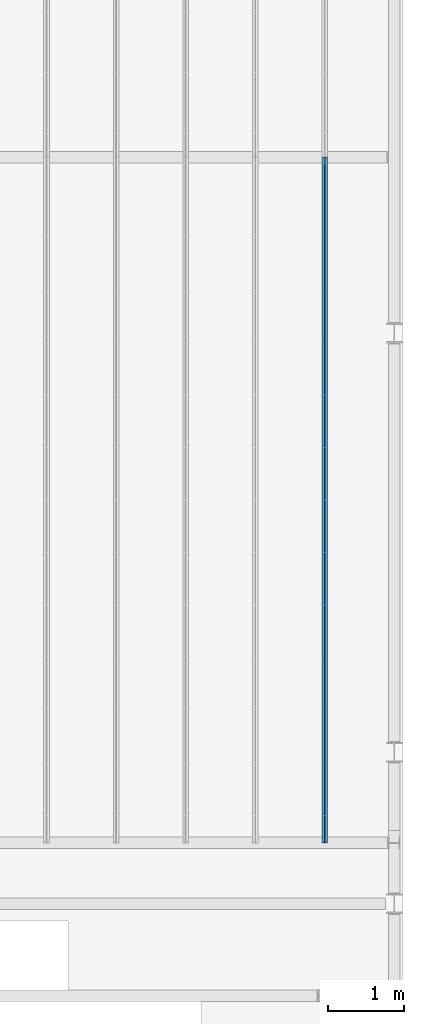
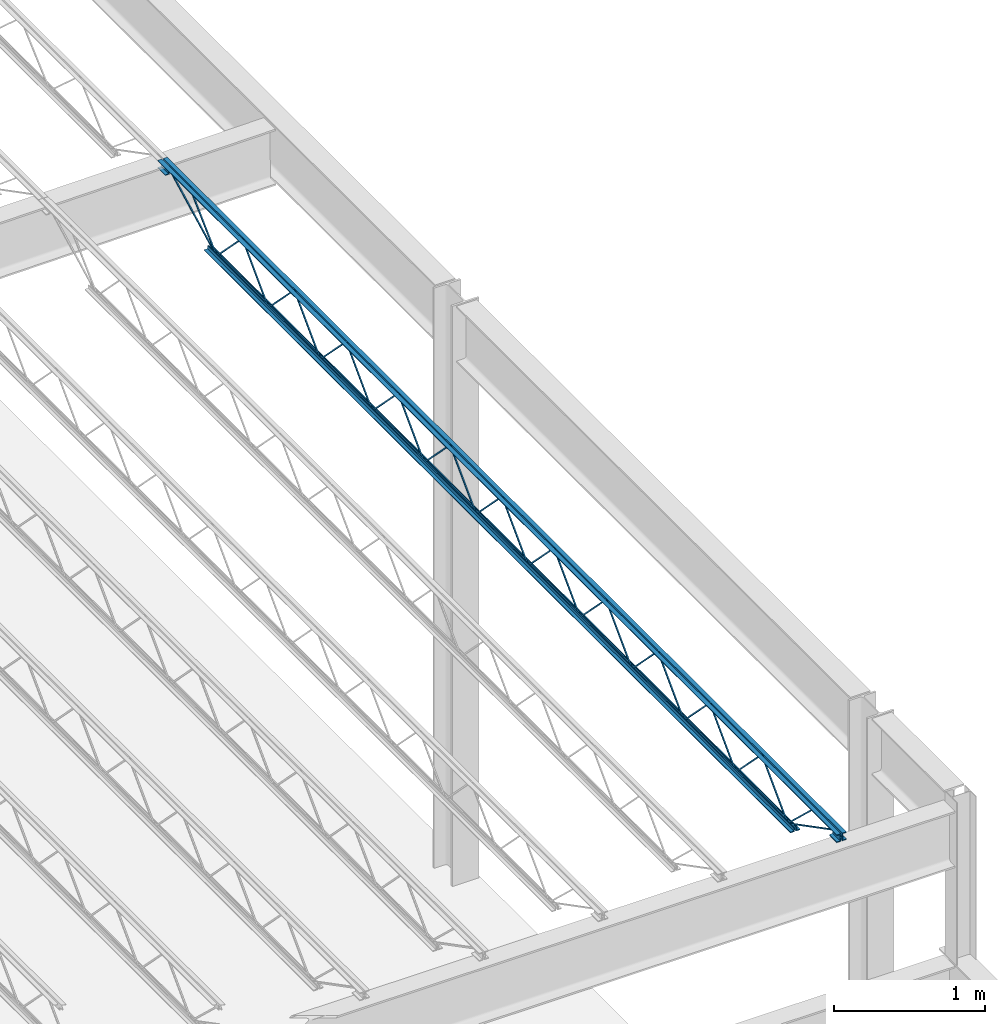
# One storey, part 74 of 119: 1 beam.
"""IFC2X3 building model written with IfcOpenShell, lengths in metres."""

from ifc_helpers import new_model, entity, si_unit, converted_unit, frame, origin, place, context, project, spatial, face_set, surface_model, element, save


model = new_model("IFC2X3")

# Units and contexts
model_context = context("Model", 3, precision=1e-09, world=origin())
plan_context = context("Plan", 3, precision=1e-09, world=origin())
ifc_project = project(units=[si_unit("LENGTHUNIT", "METRE"), si_unit("AREAUNIT", "SQUARE_METRE"), si_unit("VOLUMEUNIT", "CUBIC_METRE"), converted_unit("PLANEANGLEUNIT", "DEGREE", entity("IfcRatioMeasure", 0.01745329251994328), si_unit("PLANEANGLEUNIT", "RADIAN"), dimensions=[0, 0, 0, 0, 0, 0, 0]), si_unit("TIMEUNIT", "SECOND")], contexts=[model_context, plan_context])

# Site, building, storey
site_placement = place(None, origin())
site = spatial("IfcSite", under=ifc_project, at=site_placement, Name="Default", CompositionType="ELEMENT")
building_placement = place(site_placement, origin())
building = spatial("IfcBuilding", under=site, at=building_placement, CompositionType="ELEMENT")
storey_placement = place(building_placement, frame((0.0, 0.0, 4.570000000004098)))
storey = spatial("IfcBuildingStorey", under=building, at=storey_placement, Name="Second Floor", CompositionType="ELEMENT", Elevation=4.570000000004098)

# Beam
beam_placement = place(storey_placement, frame((-0.9467500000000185, 35.80499999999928, 4.323999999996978)))
element("IfcBeam", 1, at=beam_placement, inside=storey, Name="M_K-Series Bar Joist-Rod Web:14K1:14K1", ObjectType="M_K-Series Bar Joist-Rod Web:14K1", context=model_context, shape_type="SurfaceModel", body=[
    surface_model("IfcFaceBasedSurfaceModel", [(0.04150000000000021, 6.89009090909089, 0.01110000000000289), (0.0320000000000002, 6.89009090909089, 0.01110000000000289), (0.0320000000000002, 6.89009090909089, 0.001600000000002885), (0.04150000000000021, 6.89009090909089, 0.001600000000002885), (0.0320000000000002, 6.891272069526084, 0.01110000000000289), (0.04150000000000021, 6.891272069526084, 0.01110000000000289), (0.0320000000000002, 6.895259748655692, 0.001600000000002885), (0.03200000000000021, 7.232137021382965, 0.3449000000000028), (0.03200000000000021, 7.23449934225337, 0.3449000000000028), (0.03200000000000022, 7.571376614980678, 0.001600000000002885), (0.03200000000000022, 7.576545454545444, 0.001600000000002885), (0.03200000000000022, 7.576545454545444, 0.01110000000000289), (0.03200000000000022, 7.575364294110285, 0.01110000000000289), (0.0320000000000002, 7.238487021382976, 0.3544000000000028), (0.03200000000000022, 7.228149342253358, 0.3544000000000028), (0.0415000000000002, 6.895259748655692, 0.001600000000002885), (0.04150000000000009, 7.232137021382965, 0.3449000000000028), (0.04150000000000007, 7.23449934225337, 0.3449000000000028), (0.04150000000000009, 7.571376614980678, 0.001600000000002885), (0.04150000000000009, 7.576545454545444, 0.001600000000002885), (0.04150000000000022, 7.576545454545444, 0.01110000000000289), (0.04150000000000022, 7.575364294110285, 0.01110000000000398), (0.04150000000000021, 7.238487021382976, 0.3544000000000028), (0.04150000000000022, 7.228149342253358, 0.3544000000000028), (0.0415000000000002, 6.203636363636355, 0.01110000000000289), (0.0320000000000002, 6.203636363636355, 0.01110000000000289), (0.0320000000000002, 6.203636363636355, 0.001600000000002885), (0.0415000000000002, 6.203636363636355, 0.001600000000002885), (0.0320000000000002, 6.204817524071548, 0.01110000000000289), (0.0415000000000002, 6.204817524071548, 0.01110000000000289), (0.0320000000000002, 6.208805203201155, 0.001600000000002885), (0.0320000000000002, 6.545682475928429, 0.3449000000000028), (0.0320000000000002, 6.548044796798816, 0.3449000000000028), (0.03200000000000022, 6.884922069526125, 0.001600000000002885), (0.03200000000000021, 6.888909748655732, 0.01110000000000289), (0.0320000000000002, 6.552032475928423, 0.3544000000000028), (0.03200000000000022, 6.541694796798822, 0.3544000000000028), (0.0415000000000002, 6.208805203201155, 0.001600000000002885), (0.04150000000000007, 6.545682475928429, 0.3449000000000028), (0.04150000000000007, 6.548044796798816, 0.3449000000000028), (0.04150000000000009, 6.884922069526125, 0.001600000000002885), (0.04150000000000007, 6.89009090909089, 0.001600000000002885), (0.04150000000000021, 6.888909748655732, 0.01110000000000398), (0.0415000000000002, 6.552032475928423, 0.3544000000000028), (0.04150000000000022, 6.541694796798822, 0.3544000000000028), (0.0415000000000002, 5.517181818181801, 0.01110000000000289), (0.0320000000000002, 5.517181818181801, 0.01110000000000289), (0.0320000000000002, 5.517181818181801, 0.001600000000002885), (0.0415000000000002, 5.517181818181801, 0.001600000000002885), (0.0320000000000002, 5.518362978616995, 0.01110000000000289), (0.0415000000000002, 5.518362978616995, 0.01110000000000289), (0.03200000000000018, 5.522350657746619, 0.001600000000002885), (0.0320000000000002, 5.859227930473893, 0.3449000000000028), (0.0320000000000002, 5.861590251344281, 0.3449000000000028), (0.03200000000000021, 6.198467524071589, 0.001600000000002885), (0.0320000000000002, 6.202455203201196, 0.01110000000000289), (0.03200000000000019, 5.865577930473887, 0.3544000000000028), (0.0320000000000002, 5.855240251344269, 0.3544000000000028), (0.0415000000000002, 5.522350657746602, 0.001600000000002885), (0.04150000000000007, 5.859227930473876, 0.3449000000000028), (0.04150000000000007, 5.861590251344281, 0.3449000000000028), (0.04150000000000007, 6.198467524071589, 0.001600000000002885), (0.04150000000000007, 6.203636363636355, 0.001600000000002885), (0.04150000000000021, 6.202455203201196, 0.01110000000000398), (0.0415000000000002, 5.865577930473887, 0.3544000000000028), (0.04150000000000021, 5.855240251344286, 0.3544000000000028), (0.0415000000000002, 4.830727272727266, 0.01110000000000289), (0.03200000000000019, 4.830727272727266, 0.01110000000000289), (0.03200000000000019, 4.830727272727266, 0.001600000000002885), (0.0415000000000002, 4.830727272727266, 0.001600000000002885), (0.03200000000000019, 4.831908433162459, 0.01110000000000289), (0.0415000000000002, 4.831908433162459, 0.01110000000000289), (0.03200000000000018, 4.835896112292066, 0.001600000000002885), (0.0320000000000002, 5.17277338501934, 0.3449000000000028), (0.03200000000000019, 5.175135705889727, 0.3449000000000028), (0.0320000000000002, 5.512012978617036, 0.001600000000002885), (0.0320000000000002, 5.517181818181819, 0.001600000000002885), (0.0320000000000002, 5.517181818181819, 0.01110000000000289), (0.0320000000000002, 5.51600065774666, 0.01110000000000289), (0.03200000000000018, 5.179123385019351, 0.3544000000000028), (0.0320000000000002, 5.168785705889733, 0.3544000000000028), (0.04150000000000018, 4.835896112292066, 0.001600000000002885), (0.04150000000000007, 5.17277338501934, 0.3449000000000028), (0.04150000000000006, 5.175135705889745, 0.3449000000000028), (0.04150000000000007, 5.512012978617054, 0.001600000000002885), (0.04150000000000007, 5.517181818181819, 0.001600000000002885), (0.0415000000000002, 5.517181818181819, 0.01110000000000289), (0.0415000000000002, 5.51600065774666, 0.01110000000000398), (0.04150000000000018, 5.179123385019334, 0.3544000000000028), (0.0415000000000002, 5.168785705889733, 0.3544000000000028), (0.04150000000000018, 4.14427272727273, 0.01110000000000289), (0.03200000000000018, 4.14427272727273, 0.01110000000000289), (0.03200000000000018, 4.14427272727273, 0.001600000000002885), (0.04150000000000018, 4.14427272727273, 0.001600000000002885), (0.03200000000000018, 4.145453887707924, 0.01110000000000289), (0.04150000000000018, 4.145453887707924, 0.01110000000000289), (0.03200000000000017, 4.14944156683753, 0.001600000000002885), (0.03200000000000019, 4.486318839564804, 0.3449000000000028), (0.03200000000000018, 4.488681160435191, 0.3449000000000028), (0.0320000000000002, 4.8255584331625, 0.001600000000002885), (0.03200000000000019, 4.829546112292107, 0.01110000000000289), (0.03200000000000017, 4.492668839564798, 0.3544000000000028), (0.0320000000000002, 4.482331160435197, 0.3544000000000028), (0.04150000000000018, 4.14944156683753, 0.001600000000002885), (0.04150000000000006, 4.486318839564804, 0.3449000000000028), (0.04150000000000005, 4.488681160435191, 0.3449000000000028), (0.04150000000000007, 4.8255584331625, 0.001600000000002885), (0.04150000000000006, 4.830727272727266, 0.001600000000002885), (0.0415000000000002, 4.829546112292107, 0.01110000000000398), (0.04150000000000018, 4.492668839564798, 0.3544000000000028), (0.0415000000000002, 4.482331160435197, 0.3544000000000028), (0.04150000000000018, 3.457818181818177, 0.01110000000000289), (0.03200000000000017, 3.457818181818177, 0.01110000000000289), (0.03200000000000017, 3.457818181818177, 0.001600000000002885), (0.04150000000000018, 3.457818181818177, 0.001600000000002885), (0.03200000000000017, 3.458999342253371, 0.01110000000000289), (0.04150000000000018, 3.458999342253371, 0.01110000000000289), (0.03200000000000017, 3.462987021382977, 0.001600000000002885), (0.03200000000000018, 3.799864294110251, 0.3449000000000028), (0.03200000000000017, 3.802226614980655, 0.3449000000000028), (0.03200000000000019, 4.139103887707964, 0.001600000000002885), (0.03200000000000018, 4.143091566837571, 0.01110000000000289), (0.03200000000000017, 3.806214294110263, 0.3544000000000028), (0.03200000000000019, 3.795876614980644, 0.3544000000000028), (0.04150000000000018, 3.462987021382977, 0.001600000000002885), (0.04150000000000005, 3.799864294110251, 0.3449000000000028), (0.04150000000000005, 3.802226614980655, 0.3449000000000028), (0.04150000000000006, 4.139103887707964, 0.001600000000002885), (0.04150000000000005, 4.14427272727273, 0.001600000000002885), (0.04150000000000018, 4.143091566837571, 0.01110000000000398), (0.04150000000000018, 3.806214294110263, 0.3544000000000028), (0.0415000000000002, 3.795876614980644, 0.3544000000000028), (0.04150000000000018, 2.771363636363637, 0.01110000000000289), (0.03200000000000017, 2.771363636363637, 0.01110000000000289), (0.03200000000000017, 2.771363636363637, 0.001600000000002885), (0.04150000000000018, 2.771363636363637, 0.001600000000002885), (0.03200000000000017, 2.772544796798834, 0.01110000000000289), (0.04150000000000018, 2.772544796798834, 0.01110000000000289), (0.03200000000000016, 2.776532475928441, 0.001600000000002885), (0.03200000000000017, 3.113409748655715, 0.3449000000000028), (0.03200000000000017, 3.115772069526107, 0.3449000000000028), (0.03200000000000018, 3.452649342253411, 0.001600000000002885), (0.03200000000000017, 3.456637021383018, 0.01110000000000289), (0.03200000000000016, 3.119759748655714, 0.3544000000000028), (0.03200000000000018, 3.109422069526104, 0.3544000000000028), (0.04150000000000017, 2.776532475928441, 0.001600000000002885), (0.04150000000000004, 3.113409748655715, 0.3449000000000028), (0.04150000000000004, 3.115772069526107, 0.3449000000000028), (0.04150000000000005, 3.452649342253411, 0.001600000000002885), (0.04150000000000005, 3.457818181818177, 0.001600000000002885), (0.04150000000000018, 3.456637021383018, 0.01110000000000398), (0.04150000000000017, 3.119759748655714, 0.3544000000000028), (0.04150000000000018, 3.109422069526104, 0.3544000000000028), (0.04150000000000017, 2.084909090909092, 0.01110000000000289), (0.03200000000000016, 2.084909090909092, 0.01110000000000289), (0.03200000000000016, 2.084909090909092, 0.001600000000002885), (0.04150000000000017, 2.084909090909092, 0.001600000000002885), (0.03200000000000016, 2.08609025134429, 0.01110000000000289), (0.04150000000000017, 2.08609025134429, 0.01110000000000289), (0.03200000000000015, 2.090077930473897, 0.001600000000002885), (0.03200000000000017, 2.426955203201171, 0.3449000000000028), (0.03200000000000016, 2.429317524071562, 0.3449000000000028), (0.03200000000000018, 2.766194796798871, 0.001600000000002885), (0.03200000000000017, 2.770182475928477, 0.01110000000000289), (0.03200000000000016, 2.433305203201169, 0.3544000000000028), (0.03200000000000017, 2.422967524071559, 0.3544000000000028), (0.04150000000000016, 2.090077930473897, 0.001600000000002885), (0.04150000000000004, 2.426955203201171, 0.3449000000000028), (0.04150000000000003, 2.429317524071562, 0.3449000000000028), (0.04150000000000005, 2.766194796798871, 0.001600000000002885), (0.04150000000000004, 2.771363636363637, 0.001600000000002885), (0.04150000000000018, 2.770182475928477, 0.01110000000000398), (0.04150000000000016, 2.433305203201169, 0.3544000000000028), (0.04150000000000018, 2.422967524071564, 0.3544000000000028), (0.04150000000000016, 1.398454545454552, 0.01110000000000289), (0.03200000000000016, 1.398454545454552, 0.01110000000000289), (0.03200000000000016, 1.398454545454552, 0.001600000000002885), (0.04150000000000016, 1.398454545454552, 0.001600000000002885), (0.03200000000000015, 1.39963570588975, 0.01110000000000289), (0.04150000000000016, 1.39963570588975, 0.01110000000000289), (0.03200000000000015, 1.403623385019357, 0.001600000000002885), (0.03200000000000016, 1.740500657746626, 0.3449000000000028), (0.03200000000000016, 1.742862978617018, 0.3449000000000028), (0.03200000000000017, 2.07974025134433, 0.001600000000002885), (0.03200000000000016, 2.084909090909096, 0.001600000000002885), (0.03200000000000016, 2.084909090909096, 0.01110000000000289), (0.03200000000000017, 2.083727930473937, 0.01110000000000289), (0.03200000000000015, 1.746850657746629, 0.3544000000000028), (0.03200000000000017, 1.736512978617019, 0.3544000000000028), (0.04150000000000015, 1.403623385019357, 0.001600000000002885), (0.04150000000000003, 1.74050065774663, 0.3449000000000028), (0.04150000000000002, 1.742862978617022, 0.3449000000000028), (0.04150000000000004, 2.07974025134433, 0.001600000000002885), (0.04150000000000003, 2.084909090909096, 0.001600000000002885), (0.04150000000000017, 2.084909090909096, 0.01110000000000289), (0.04150000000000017, 2.083727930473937, 0.01110000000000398), (0.04150000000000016, 1.746850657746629, 0.3544000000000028), (0.04150000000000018, 1.736512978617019, 0.3544000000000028), (0.04150000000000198, 7.576545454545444, 0.01109999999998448), (0.03200000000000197, 7.576545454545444, 0.01109999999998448), (0.03200000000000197, 7.576545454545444, 0.001599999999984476), (0.04150000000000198, 7.576545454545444, 0.001599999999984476), (0.03200000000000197, 7.577726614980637, 0.01109999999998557), (0.04150000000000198, 7.577726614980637, 0.01109999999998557), (0.03200000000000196, 7.581714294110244, 0.001599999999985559), (0.03200000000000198, 7.918591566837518, 0.3448999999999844), (0.03200000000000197, 7.920953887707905, 0.3448999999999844), (0.03200000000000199, 8.257831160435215, 0.001599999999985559), (0.03200000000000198, 8.26299999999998, 0.001599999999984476), (0.03200000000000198, 8.26299999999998, 0.01109999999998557), (0.03200000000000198, 8.261818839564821, 0.01109999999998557), (0.03200000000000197, 7.924941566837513, 0.3543999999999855), (0.03200000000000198, 7.914603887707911, 0.3543999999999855), (0.04150000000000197, 7.581714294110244, 0.001599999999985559), (0.04150000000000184, 7.918591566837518, 0.3448999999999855), (0.04150000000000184, 7.920953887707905, 0.3448999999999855), (0.04150000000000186, 8.257831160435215, 0.001599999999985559), (0.04150000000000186, 8.26299999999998, 0.001599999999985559), (0.04150000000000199, 8.26299999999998, 0.01109999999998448), (0.04150000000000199, 8.261818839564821, 0.01109999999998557), (0.04150000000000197, 7.924941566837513, 0.3543999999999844), (0.04150000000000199, 7.914603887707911, 0.3543999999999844), (0.04150000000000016, 0.7120000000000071, 0.01110000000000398), (0.03200000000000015, 0.7120000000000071, 0.01110000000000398), (0.03200000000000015, 0.7120000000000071, 0.001600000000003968), (0.04150000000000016, 0.7120000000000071, 0.001600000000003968), (0.03200000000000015, 0.7131811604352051, 0.01110000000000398), (0.04150000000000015, 0.7131811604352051, 0.01110000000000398), (0.03200000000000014, 0.7171688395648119, 0.001600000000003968), (0.03200000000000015, 1.054046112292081, 0.3449000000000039), (0.03200000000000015, 1.056408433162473, 0.3449000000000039), (0.03200000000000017, 1.393285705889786, 0.001600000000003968), (0.03200000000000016, 1.398454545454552, 0.001600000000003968), (0.03200000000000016, 1.398454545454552, 0.01110000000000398), (0.03200000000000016, 1.397273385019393, 0.01110000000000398), (0.03200000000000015, 1.060396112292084, 0.3544000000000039), (0.03200000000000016, 1.050058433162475, 0.3544000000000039), (0.04150000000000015, 0.7171688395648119, 0.001600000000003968), (0.04150000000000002, 1.054046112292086, 0.3449000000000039), (0.04150000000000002, 1.056408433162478, 0.3449000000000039), (0.04150000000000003, 1.393285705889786, 0.001600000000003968), (0.04150000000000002, 1.398454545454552, 0.001600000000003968), (0.04150000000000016, 1.398454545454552, 0.01110000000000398), (0.04150000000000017, 1.397273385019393, 0.01110000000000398), (0.04150000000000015, 1.060396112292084, 0.3544000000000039), (0.04150000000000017, 1.050058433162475, 0.3544000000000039), (0.03200000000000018, 8.975000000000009, 0.3559999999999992), (0.0, 8.975000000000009, 0.3559999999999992), (0.0, 8.975000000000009, 0.3494999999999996), (0.0254999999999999, 8.975000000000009, 0.3494999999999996), (0.0254999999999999, 8.975000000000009, 0.3239999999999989), (0.03200000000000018, 8.975000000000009, 0.3239999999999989), (0.04149999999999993, 8.975000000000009, 0.3559999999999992), (0.04149999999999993, 8.975000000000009, 0.3239999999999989), (0.04799999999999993, 8.975000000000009, 0.3239999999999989), (0.04799999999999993, 8.975000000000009, 0.3494999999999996), (0.07350000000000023, 8.975000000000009, 0.3494999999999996), (0.07350000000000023, 8.975000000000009, 0.3559999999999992), (0.03200000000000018, 0.0, 0.3559999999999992), (0.0, 0.0, 0.3559999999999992), (0.0, 0.0, 0.3494999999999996), (0.0254999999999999, 0.0, 0.3494999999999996), (0.0254999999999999, 0.0, 0.3239999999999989), (0.03200000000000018, 0.0, 0.3239999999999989), (0.04149999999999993, 0.0, 0.3559999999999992), (0.04149999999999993, 0.0, 0.3239999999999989), (0.04799999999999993, 0.0, 0.3239999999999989), (0.04799999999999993, 0.0, 0.3494999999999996), (0.07350000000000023, 0.0, 0.3494999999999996), (0.07350000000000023, 0.0, 0.3559999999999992), (0.0414999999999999, 0.09999999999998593, 0.2924999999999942), (0.0735000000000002, 0.09999999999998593, 0.2924999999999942), (0.0735000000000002, 0.09999999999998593, 0.2989999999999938), (0.04799999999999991, 0.09999999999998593, 0.2989999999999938), (0.04799999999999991, 0.09999999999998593, 0.3239999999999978), (0.0414999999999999, 0.09999999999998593, 0.3239999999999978), (0.0, 0.09999999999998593, 0.2924999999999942), (0.03199999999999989, 0.09999999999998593, 0.2924999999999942), (0.03199999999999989, 0.09999999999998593, 0.3239999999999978), (0.02549999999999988, 0.09999999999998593, 0.3239999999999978), (0.02549999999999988, 0.09999999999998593, 0.2989999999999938), (0.0, 0.09999999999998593, 0.2989999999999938), (0.04149999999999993, 0.0, 0.2924999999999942), (0.07350000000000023, 0.0, 0.2924999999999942), (0.07350000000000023, 0.0, 0.2989999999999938), (0.04799999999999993, 0.0, 0.2989999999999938), (0.04799999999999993, 0.0, 0.3239999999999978), (0.04149999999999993, 0.0, 0.3239999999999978), (0.0, 0.0, 0.2924999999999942), (0.03199999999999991, 0.0, 0.2924999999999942), (0.03199999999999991, 0.0, 0.3239999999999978), (0.0254999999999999, 0.0, 0.3239999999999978), (0.0254999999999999, 0.0, 0.2989999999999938), (0.0, 0.0, 0.2989999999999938), (0.03199999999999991, 8.975000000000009, 0.2924999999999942), (0.03199999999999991, 8.975000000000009, 0.3239999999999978), (0.0254999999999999, 8.975000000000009, 0.3239999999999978), (0.0254999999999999, 8.975000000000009, 0.2989999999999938), (0.0, 8.975000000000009, 0.2989999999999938), (0.0, 8.975000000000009, 0.2924999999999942), (0.04149999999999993, 8.975000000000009, 0.2924999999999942), (0.07350000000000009, 8.975000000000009, 0.2924999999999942), (0.07350000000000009, 8.975000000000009, 0.2989999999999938), (0.04799999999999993, 8.975000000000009, 0.2989999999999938), (0.04799999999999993, 8.975000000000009, 0.3239999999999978), (0.04149999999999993, 8.975000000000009, 0.3239999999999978), (0.03199999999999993, 8.874999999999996, 0.2924999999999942), (0.03199999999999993, 8.874999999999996, 0.3239999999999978), (0.02549999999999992, 8.874999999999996, 0.3239999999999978), (0.02549999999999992, 8.874999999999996, 0.2989999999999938), (0.0, 8.874999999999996, 0.2989999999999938), (0.0, 8.874999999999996, 0.2924999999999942), (0.04149999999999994, 8.874999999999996, 0.2924999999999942), (0.0735000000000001, 8.874999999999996, 0.2924999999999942), (0.0735000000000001, 8.874999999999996, 0.2989999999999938), (0.04799999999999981, 8.874999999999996, 0.2989999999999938), (0.04799999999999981, 8.874999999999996, 0.3239999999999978), (0.04149999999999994, 8.874999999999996, 0.3239999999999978), (0.03199999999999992, 8.363000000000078, 0.0), (0.03199999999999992, 8.363000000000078, 0.03199999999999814), (0.02549999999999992, 8.363000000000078, 0.03199999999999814), (0.02549999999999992, 8.363000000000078, 0.006499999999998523), (0.0, 8.363000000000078, 0.006499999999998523), (0.0, 8.363000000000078, 0.0), (0.04149999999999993, 8.363000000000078, 0.0), (0.0735000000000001, 8.363000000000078, 0.0), (0.0735000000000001, 8.363000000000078, 0.006499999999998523), (0.04799999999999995, 8.363000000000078, 0.006499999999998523), (0.04799999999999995, 8.363000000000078, 0.03199999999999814), (0.04149999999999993, 8.363000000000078, 0.03199999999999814), (0.0319999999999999, 0.6120000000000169, 0.0), (0.0319999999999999, 0.6120000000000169, 0.03199999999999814), (0.02549999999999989, 0.6120000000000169, 0.03199999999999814), (0.02549999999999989, 0.6120000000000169, 0.006499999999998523), (0.0, 0.6120000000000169, 0.006499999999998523), (0.0, 0.6120000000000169, 0.0), (0.04149999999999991, 0.6120000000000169, 0.0), (0.07350000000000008, 0.6120000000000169, 0.0), (0.07350000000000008, 0.6120000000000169, 0.006499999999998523), (0.04799999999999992, 0.6120000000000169, 0.006499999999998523), (0.04799999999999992, 0.6120000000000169, 0.03199999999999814), (0.04149999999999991, 0.6120000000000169, 0.03199999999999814), (0.04150000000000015, 0.7141882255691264, 0.01056594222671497), (0.03200000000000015, 0.7141882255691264, 0.01056594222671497), (0.03200000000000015, 0.7098117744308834, 0.002134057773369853), (0.04150000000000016, 0.7098117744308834, 0.002134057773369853), (0.04150000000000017, 0.1011592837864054, 0.3287499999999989), (0.0415000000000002, 0.0, 0.3287499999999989), (0.0415000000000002, 0.0, 0.3192499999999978), (0.04150000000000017, 0.09884071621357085, 0.3192499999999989), (0.03200000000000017, 0.09884071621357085, 0.3192499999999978), (0.03200000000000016, 0.1011592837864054, 0.3287499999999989), (0.03200000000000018, 0.0, 0.3287499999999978), (0.03200000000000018, 0.0, 0.3192499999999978), (0.04150000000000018, 0.3488155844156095, 0.3417000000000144), (0.03200000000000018, 0.3488155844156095, 0.3417000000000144), (0.03200000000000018, 0.3488155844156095, 0.3322000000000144), (0.04150000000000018, 0.3488155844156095, 0.3322000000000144), (0.03200000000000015, 0.3634023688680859, 0.3417000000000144), (0.04150000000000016, 0.3634023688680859, 0.3417000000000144), (0.03200000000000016, 0.3596287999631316, 0.3322000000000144), (0.03200000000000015, 0.7087406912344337, 0.002894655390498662), (0.03200000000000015, 0.7152593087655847, 0.009805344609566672), (0.04150000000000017, 0.3596287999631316, 0.3322000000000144), (0.04150000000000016, 0.7087406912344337, 0.002894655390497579), (0.04150000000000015, 0.7152593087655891, 0.009805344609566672), (0.04150000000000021, 8.877188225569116, 0.3197840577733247), (0.04150000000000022, 8.872811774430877, 0.3282159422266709), (0.03200000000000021, 8.872811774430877, 0.3282159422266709), (0.0320000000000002, 8.877188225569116, 0.3197840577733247), (0.04150000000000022, 8.265188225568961, 0.002134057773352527), (0.04150000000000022, 8.260811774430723, 0.01056594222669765), (0.03200000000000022, 8.260811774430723, 0.01056594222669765), (0.03200000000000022, 8.265188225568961, 0.002134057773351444), (0.0415000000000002, 8.624030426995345, 0.346222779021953), (0.04150000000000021, 8.617452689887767, 0.3530772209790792), (0.0320000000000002, 8.617452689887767, 0.3530772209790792), (0.0320000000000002, 8.624030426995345, 0.346222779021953), (0.04150000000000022, 8.266288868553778, 0.002922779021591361), (0.04150000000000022, 8.259711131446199, 0.009777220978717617), (0.03200000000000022, 8.259711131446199, 0.009777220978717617), (0.03200000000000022, 8.266288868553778, 0.002922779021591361)], [face_set([[[0, 1, 2, 3]], [[1, 4, 5, 0]], [[2, 6, 7, 8, 9, 10, 11, 12, 13, 14, 4, 1]], [[3, 2, 6, 15]], [[0, 3, 15, 16, 17, 18, 19, 20, 21, 22, 23, 5]], [[4, 5, 23, 14]], [[15, 16, 7, 6]], [[14, 13, 22, 23]], [[16, 7, 8, 17]], [[13, 12, 21, 22]], [[17, 8, 9, 18]], [[20, 11, 10, 19]], [[12, 11, 20, 21]], [[18, 9, 10, 19]]]), face_set([[[24, 25, 26, 27]], [[25, 28, 29, 24]], [[26, 30, 31, 32, 33, 2, 1, 34, 35, 36, 28, 25]], [[27, 26, 30, 37]], [[24, 27, 37, 38, 39, 40, 41, 0, 42, 43, 44, 29]], [[28, 29, 44, 36]], [[37, 38, 31, 30]], [[36, 35, 43, 44]], [[38, 31, 32, 39]], [[35, 34, 42, 43]], [[39, 32, 33, 40]], [[0, 1, 2, 41]], [[34, 1, 0, 42]], [[40, 33, 2, 41]]]), face_set([[[45, 46, 47, 48]], [[46, 49, 50, 45]], [[47, 51, 52, 53, 54, 26, 25, 55, 56, 57, 49, 46]], [[48, 47, 51, 58]], [[45, 48, 58, 59, 60, 61, 62, 24, 63, 64, 65, 50]], [[49, 50, 65, 57]], [[58, 59, 52, 51]], [[57, 56, 64, 65]], [[59, 52, 53, 60]], [[56, 55, 63, 64]], [[60, 53, 54, 61]], [[24, 25, 26, 62]], [[55, 25, 24, 63]], [[61, 54, 26, 62]]]), face_set([[[66, 67, 68, 69]], [[67, 70, 71, 66]], [[68, 72, 73, 74, 75, 76, 77, 78, 79, 80, 70, 67]], [[69, 68, 72, 81]], [[66, 69, 81, 82, 83, 84, 85, 86, 87, 88, 89, 71]], [[70, 71, 89, 80]], [[81, 82, 73, 72]], [[80, 79, 88, 89]], [[82, 73, 74, 83]], [[79, 78, 87, 88]], [[83, 74, 75, 84]], [[86, 77, 76, 85]], [[78, 77, 86, 87]], [[84, 75, 76, 85]]]), face_set([[[90, 91, 92, 93]], [[91, 94, 95, 90]], [[92, 96, 97, 98, 99, 68, 67, 100, 101, 102, 94, 91]], [[93, 92, 96, 103]], [[90, 93, 103, 104, 105, 106, 107, 66, 108, 109, 110, 95]], [[94, 95, 110, 102]], [[103, 104, 97, 96]], [[102, 101, 109, 110]], [[104, 97, 98, 105]], [[101, 100, 108, 109]], [[105, 98, 99, 106]], [[66, 67, 68, 107]], [[100, 67, 66, 108]], [[106, 99, 68, 107]]]), face_set([[[111, 112, 113, 114]], [[112, 115, 116, 111]], [[113, 117, 118, 119, 120, 92, 91, 121, 122, 123, 115, 112]], [[114, 113, 117, 124]], [[111, 114, 124, 125, 126, 127, 128, 90, 129, 130, 131, 116]], [[115, 116, 131, 123]], [[124, 125, 118, 117]], [[123, 122, 130, 131]], [[125, 118, 119, 126]], [[122, 121, 129, 130]], [[126, 119, 120, 127]], [[90, 91, 92, 128]], [[121, 91, 90, 129]], [[127, 120, 92, 128]]]), face_set([[[132, 133, 134, 135]], [[133, 136, 137, 132]], [[134, 138, 139, 140, 141, 113, 112, 142, 143, 144, 136, 133]], [[135, 134, 138, 145]], [[132, 135, 145, 146, 147, 148, 149, 111, 150, 151, 152, 137]], [[136, 137, 152, 144]], [[145, 146, 139, 138]], [[144, 143, 151, 152]], [[146, 139, 140, 147]], [[143, 142, 150, 151]], [[147, 140, 141, 148]], [[111, 112, 113, 149]], [[142, 112, 111, 150]], [[148, 141, 113, 149]]]), face_set([[[153, 154, 155, 156]], [[154, 157, 158, 153]], [[155, 159, 160, 161, 162, 134, 133, 163, 164, 165, 157, 154]], [[156, 155, 159, 166]], [[153, 156, 166, 167, 168, 169, 170, 132, 171, 172, 173, 158]], [[157, 158, 173, 165]], [[166, 167, 160, 159]], [[165, 164, 172, 173]], [[167, 160, 161, 168]], [[164, 163, 171, 172]], [[168, 161, 162, 169]], [[132, 133, 134, 170]], [[163, 133, 132, 171]], [[169, 162, 134, 170]]]), face_set([[[174, 175, 176, 177]], [[175, 178, 179, 174]], [[176, 180, 181, 182, 183, 184, 185, 186, 187, 188, 178, 175]], [[177, 176, 180, 189]], [[174, 177, 189, 190, 191, 192, 193, 194, 195, 196, 197, 179]], [[178, 179, 197, 188]], [[189, 190, 181, 180]], [[188, 187, 196, 197]], [[190, 181, 182, 191]], [[187, 186, 195, 196]], [[191, 182, 183, 192]], [[194, 185, 184, 193]], [[186, 185, 194, 195]], [[192, 183, 184, 193]]]), face_set([[[198, 199, 200, 201]], [[199, 202, 203, 198]], [[200, 204, 205, 206, 207, 208, 209, 210, 211, 212, 202, 199]], [[201, 200, 204, 213]], [[198, 201, 213, 214, 215, 216, 217, 218, 219, 220, 221, 203]], [[202, 203, 221, 212]], [[213, 214, 205, 204]], [[212, 211, 220, 221]], [[214, 205, 206, 215]], [[211, 210, 219, 220]], [[215, 206, 207, 216]], [[218, 209, 208, 217]], [[210, 209, 218, 219]], [[216, 207, 208, 217]]]), face_set([[[222, 223, 224, 225]], [[223, 226, 227, 222]], [[224, 228, 229, 230, 231, 232, 233, 234, 235, 236, 226, 223]], [[225, 224, 228, 237]], [[222, 225, 237, 238, 239, 240, 241, 242, 243, 244, 245, 227]], [[226, 227, 245, 236]], [[237, 238, 229, 228]], [[236, 235, 244, 245]], [[238, 229, 230, 239]], [[235, 234, 243, 244]], [[239, 230, 231, 240]], [[242, 233, 232, 241]], [[234, 233, 242, 243]], [[240, 231, 232, 241]]]), face_set([[[246, 247, 248, 249, 250, 251]], [[252, 253, 254, 255, 256, 257]], [[258, 259, 260, 261, 262, 263]], [[264, 265, 266, 267, 268, 269]], [[251, 246, 258, 263]], [[250, 251, 263, 262]], [[249, 261, 262, 250]], [[248, 249, 261, 260]], [[247, 259, 260, 248]], [[246, 258, 259, 247]], [[257, 269, 264, 252]], [[256, 257, 269, 268]], [[255, 256, 268, 267]], [[254, 255, 267, 266]], [[253, 254, 266, 265]], [[252, 264, 265, 253]]]), face_set([[[270, 271, 272, 273, 274, 275]], [[276, 277, 278, 279, 280, 281]], [[282, 283, 284, 285, 286, 287]], [[288, 289, 290, 291, 292, 293]], [[275, 287, 282, 270]], [[274, 286, 287, 275]], [[273, 274, 286, 285]], [[272, 284, 285, 273]], [[271, 272, 284, 283]], [[270, 271, 283, 282]], [[281, 293, 288, 276]], [[280, 292, 293, 281]], [[279, 291, 292, 280]], [[278, 290, 291, 279]], [[277, 278, 290, 289]], [[276, 277, 289, 288]]]), face_set([[[294, 295, 296, 297, 298, 299]], [[300, 301, 302, 303, 304, 305]], [[306, 307, 308, 309, 310, 311]], [[312, 313, 314, 315, 316, 317]], [[299, 294, 306, 311]], [[298, 310, 311, 299]], [[297, 309, 310, 298]], [[296, 308, 309, 297]], [[295, 307, 308, 296]], [[294, 295, 307, 306]], [[305, 317, 312, 300]], [[304, 316, 317, 305]], [[303, 304, 316, 315]], [[302, 314, 315, 303]], [[301, 302, 314, 313]], [[300, 301, 313, 312]]]), face_set([[[318, 319, 320, 321, 322, 323]], [[324, 325, 326, 327, 328, 329]], [[330, 331, 332, 333, 334, 335]], [[336, 337, 338, 339, 340, 341]], [[323, 318, 330, 335]], [[322, 334, 335, 323]], [[321, 333, 334, 322]], [[320, 332, 333, 321]], [[319, 331, 332, 320]], [[318, 319, 331, 330]], [[329, 341, 336, 324]], [[328, 340, 341, 329]], [[327, 328, 340, 339]], [[326, 338, 339, 327]], [[325, 326, 338, 337]], [[324, 325, 337, 336]]]), face_set([[[342, 343, 344, 345]], [[345, 342, 346, 347, 348, 349]], [[344, 345, 349, 350]], [[343, 351, 352, 353, 350, 344]], [[342, 346, 351, 343]], [[347, 352, 353, 348]], [[350, 349, 348, 353]], [[346, 347, 352, 351]]]), face_set([[[354, 355, 356, 357]], [[355, 358, 359, 354]], [[356, 360, 361, 362, 358, 355]], [[357, 356, 360, 363]], [[354, 357, 363, 364, 365, 359]], [[365, 362, 361, 364]], [[358, 362, 365, 359]], [[363, 360, 361, 364]]]), face_set([[[366, 367, 368, 369]], [[370, 371, 372, 373]], [[369, 373, 370, 366]], [[368, 372, 373, 369]], [[367, 368, 372, 371]], [[366, 367, 371, 370]]]), face_set([[[374, 375, 376, 377]], [[378, 379, 380, 381]], [[377, 381, 378, 374]], [[376, 380, 381, 377]], [[375, 376, 380, 379]], [[374, 375, 379, 378]]])]),
])

save(model, "model.ifc")
